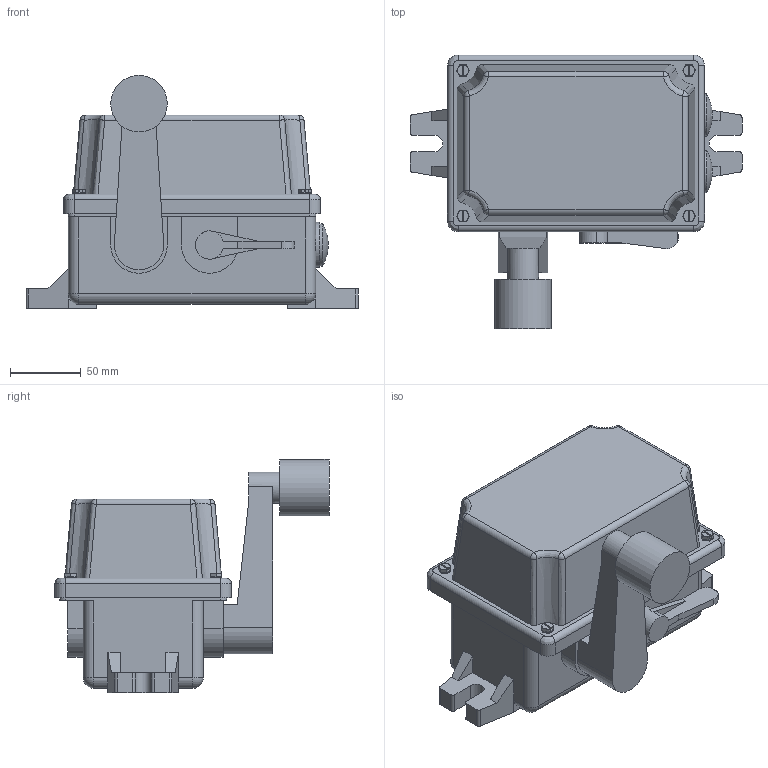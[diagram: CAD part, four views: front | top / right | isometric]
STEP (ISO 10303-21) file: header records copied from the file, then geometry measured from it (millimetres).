
FILE_DESCRIPTION( ( 'Unknown' ), '1' );
FILE_NAME( 'C:/Users/prusa/Documents/Výkresy SE/Ludík Industries/Lankový spínač 3D/LHP-R.stp', 'Unknown', ( 'Unknown' ), ( 'Unknown' ), 'PSStep 14.0', 'Unknown', ' ' );
FILE_SCHEMA( ( 'AUTOMOTIVE_DESIGN { 1 0 10303 214 1 1 1 1 }' ) );
Length unit declared in the file: millimetre
Products named in the file (6): Assem1; Páčka; NS_3D; Sroub M5x15; Ucpávka M25x1,5; Páka KS
Assembly tree (9 placements, depth 2):
  Assem1
    Páčka
    NS_3D
    Sroub M5x15  x4
    Ucpávka M25x1,5  x2
    Páka KS
Bounding box: 235 x 194 x 165 mm (x, y, z)
Volume: 2464922 mm3; surface area: 154391.9 mm2
Topology: 9 solids, 9 shells, 349 faces, 855 edges, 531 vertices
Faces by surface type: plane 209, cylinder 72, cone 30, bspline 20, sphere 14, torus 4
Full cylindrical faces by diameter (mm): 4.134 x4, 4.998 x4, 5 x4, 8 x4, 20 x1, 22 x1, 23.376 x2, 25 x2, 30 x2, 40 x1
Entity records: 9038 total; most frequent: CARTESIAN_POINT 2277, DIRECTION 1068, ORIENTED_EDGE 1060, EDGE_CURVE 530, AXIS2_PLACEMENT_3D 379, VERTEX_POINT 344, LINE 310, VECTOR 310
